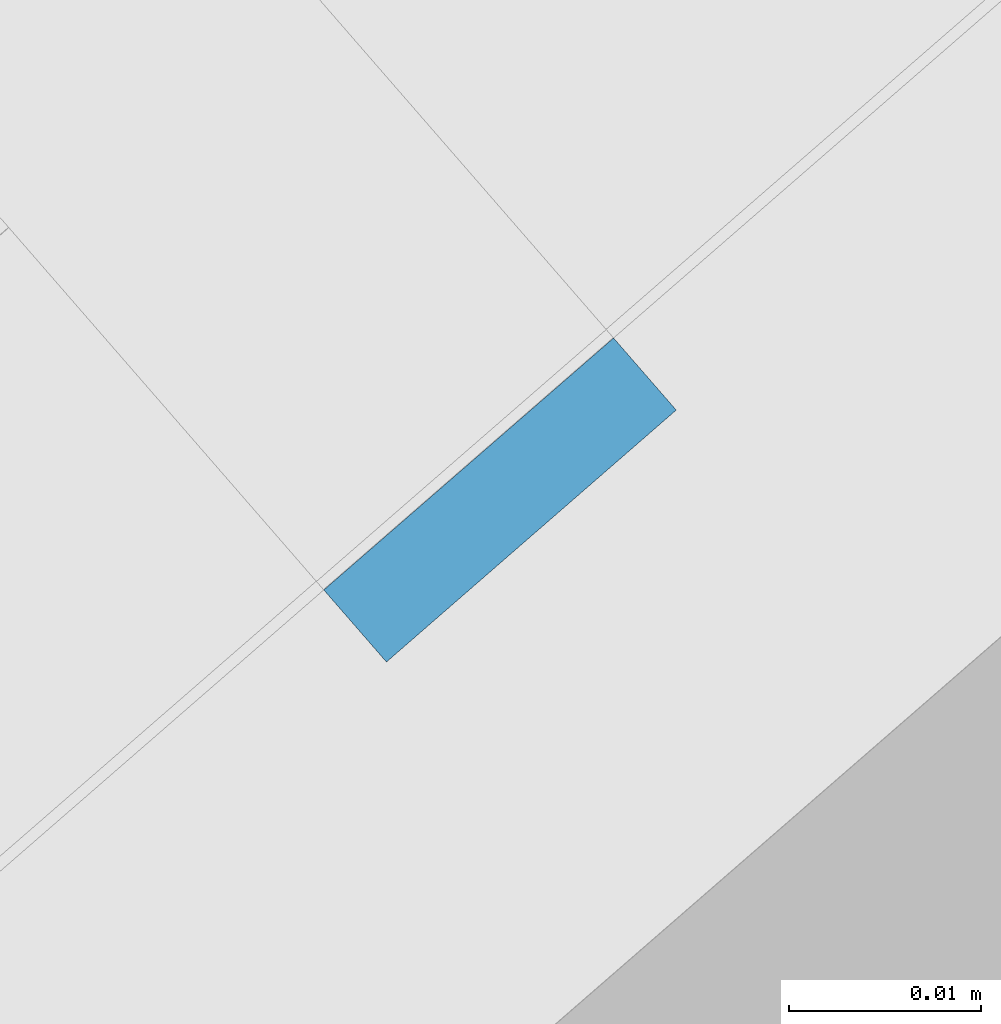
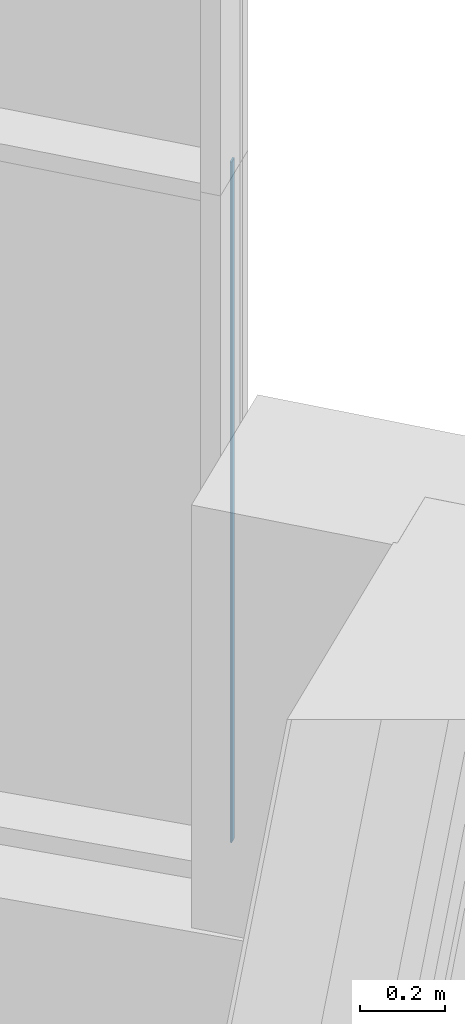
# One storey, part 55 of 390: 1 discrete accessory, 1 element without a shape of its own.
"""IFC2X3 building model written with IfcOpenShell, lengths in millimetres."""

from ifc_helpers import new_model, entity, si_unit, converted_unit, derived_unit, money_unit, direction, frame, origin_with_axes, place, context, subcontext, project, spatial, polyline, outline, extrude, material, type_object, element, aggregate, save


model = new_model("IFC2X3")

# Units and contexts
model_context = context("Model", 3, precision=1e-05, world=origin_with_axes(), true_north=direction((0.0, 1.0)))
body_context = subcontext(model_context, "Body", "Model", "MODEL_VIEW")
ifc_project = project(units=[si_unit("LENGTHUNIT", "METRE", prefix="MILLI"), si_unit("AREAUNIT", "SQUARE_METRE"), si_unit("VOLUMEUNIT", "CUBIC_METRE"), converted_unit("PLANEANGLEUNIT", "DEGREE", entity("IfcPlaneAngleMeasure", 0.0174532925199), si_unit("PLANEANGLEUNIT", "RADIAN"), dimensions=[0, 0, 0, 0, 0, 0, 0]), si_unit("SOLIDANGLEUNIT", "STERADIAN"), money_unit("EUR"), converted_unit("TIMEUNIT", "Year", entity("IfcTimeMeasure", 31556926.0), si_unit("TIMEUNIT", "SECOND"), dimensions=[0, 0, 1, 0, 0, 0, 0]), si_unit("MASSUNIT", "GRAM", prefix="KILO"), si_unit("THERMODYNAMICTEMPERATUREUNIT", "DEGREE_CELSIUS"), si_unit("LUMINOUSINTENSITYUNIT", "LUMEN"), si_unit("ENERGYUNIT", "JOULE", prefix="MEGA"), derived_unit("THERMALCONDUCTANCEUNIT", [(si_unit("POWERUNIT", "WATT"), 1), (si_unit("LENGTHUNIT", "METRE"), -1), (si_unit("THERMODYNAMICTEMPERATUREUNIT", "KELVIN"), -1)]), derived_unit("SPECIFICHEATCAPACITYUNIT", [(si_unit("ENERGYUNIT", "JOULE"), 1), (si_unit("MASSUNIT", "GRAM", prefix="KILO"), -1), (si_unit("THERMODYNAMICTEMPERATUREUNIT", "KELVIN"), -1)]), derived_unit("MASSDENSITYUNIT", [(si_unit("MASSUNIT", "GRAM", prefix="KILO"), 1), (si_unit("VOLUMEUNIT", "CUBIC_METRE"), -1)])], contexts=[model_context])

# Site, building, storey
site_placement = place(None, origin_with_axes())
site = spatial("IfcSite", under=ifc_project, at=site_placement, Name="Site", CompositionType="ELEMENT")
building_placement = place(site_placement, origin_with_axes())
building = spatial("IfcBuilding", under=site, at=building_placement, Name="Building", CompositionType="ELEMENT")
storey_placement = place(building_placement, origin_with_axes())
storey = spatial("IfcBuildingStorey", under=building, at=storey_placement, Name="1 korrus", CompositionType="ELEMENT", Elevation=0.0)

# Curtain wall, discrete accessory
curtain_wall_type = type_object("IfcCurtainWallType", Name="KLF-17", PredefinedType="NOTDEFINED")
curtain_wall_placement = place(storey_placement, frame((175630.823927, 104534.758561, -0.000216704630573), z_axis=(0.0, 0.0, 1.0), x_axis=(1.0, 0.0, 0.0)))
curtain_wall = element("IfcCurtainWall", 1, at=curtain_wall_placement, inside=storey, type_object=curtain_wall_type, Name="Klaasfassaad")
ifc_material = material(Name="Klaas")
discrete_accessory_type = type_object("IfcDiscreteAccessoryType", Name="5 x 1959 x 20")
discrete_accessory_placement = place(curtain_wall_placement, frame((2901.41286064, -3337.69369119, 1410.8600221), z_axis=(0.0, 0.0, 1.0), x_axis=(-0.65605902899, 0.754709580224, 0.0)))
discrete_accessory = element("IfcDiscreteAccessory", 2, at=discrete_accessory_placement, type_object=discrete_accessory_type, material=ifc_material, Name="KLF-17 klaaspakett", context=body_context, shape_type="SweptSolid", body=[
    extrude(outline(polyline([(7.51248054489, -989.1401946), (12.4875086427, -989.1401946), (12.4875086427, 969.426167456), (7.51248054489, 969.310063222), (7.51248054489, -989.1401946)])), frame((0.0, -10.0, 0.0), z_axis=(0.0, 1.0, 0.0), x_axis=(1.0, 0.0, 0.0)), (0.0, 0.0, 1.0), 20.0),
])
aggregate(curtain_wall, [discrete_accessory])

save(model, "model.ifc")
